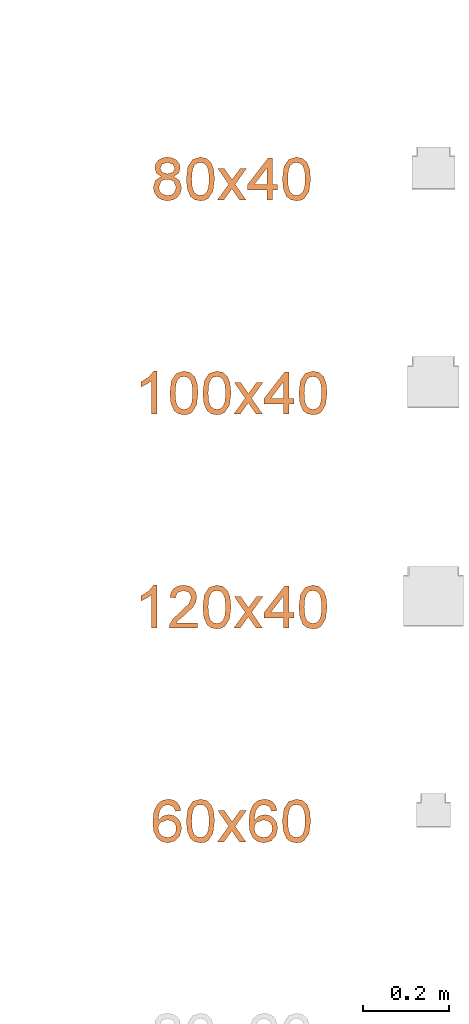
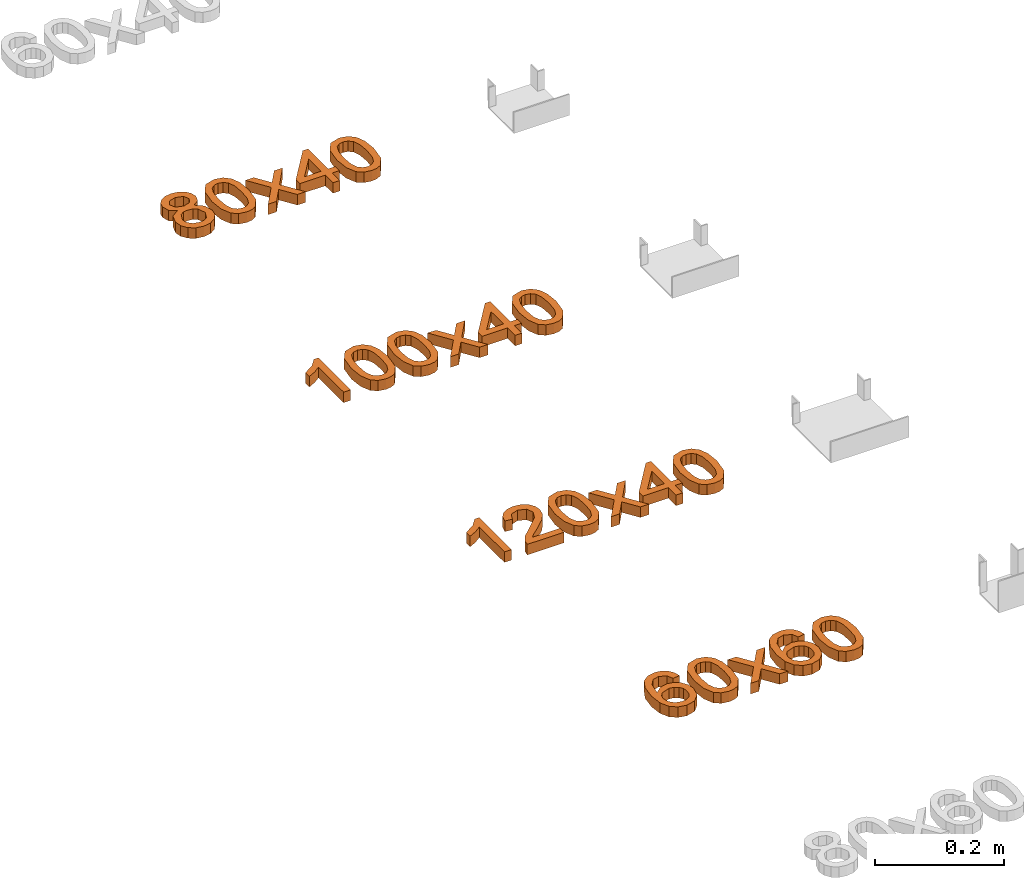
# One storey, part 62 of 71: 4 proxies.
"""IFC2X3 building model written with IfcOpenShell, lengths in millimetres."""

from ifc_helpers import new_model, entity, si_unit, converted_unit, derived_unit, direction, frame, origin, place, context, subcontext, project, spatial, polyline, outline, extrude, element, save


model = new_model("IFC2X3")

# Units and contexts
model_context = context("Model", 3, precision=0.01, world=origin(), true_north=direction((6.12303176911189e-17, 1.0)))
body_context = subcontext(model_context, "Body", "Model", "MODEL_VIEW")
ifc_project = project(units=[si_unit("LENGTHUNIT", "METRE", prefix="MILLI"), si_unit("AREAUNIT", "SQUARE_METRE"), si_unit("VOLUMEUNIT", "CUBIC_METRE"), converted_unit("PLANEANGLEUNIT", "DEGREE", entity("IfcRatioMeasure", 0.0174532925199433), si_unit("PLANEANGLEUNIT", "RADIAN"), dimensions=[0, 0, 0, 0, 0, 0, 0]), si_unit("MASSUNIT", "GRAM", prefix="KILO"), derived_unit("MASSDENSITYUNIT", [(si_unit("MASSUNIT", "GRAM", prefix="KILO"), 1), (si_unit("LENGTHUNIT", "METRE"), -3)]), si_unit("TIMEUNIT", "SECOND"), si_unit("FREQUENCYUNIT", "HERTZ"), si_unit("THERMODYNAMICTEMPERATUREUNIT", "DEGREE_CELSIUS"), derived_unit("THERMALTRANSMITTANCEUNIT", [(si_unit("MASSUNIT", "GRAM", prefix="KILO"), 1), (si_unit("THERMODYNAMICTEMPERATUREUNIT", "KELVIN"), -1), (si_unit("TIMEUNIT", "SECOND"), -3)]), derived_unit("VOLUMETRICFLOWRATEUNIT", [(si_unit("LENGTHUNIT", "METRE"), 3), (si_unit("TIMEUNIT", "SECOND"), -1)]), si_unit("ELECTRICCURRENTUNIT", "AMPERE"), si_unit("ELECTRICVOLTAGEUNIT", "VOLT"), si_unit("POWERUNIT", "WATT"), si_unit("FORCEUNIT", "NEWTON", prefix="KILO"), si_unit("ILLUMINANCEUNIT", "LUX"), si_unit("LUMINOUSFLUXUNIT", "LUMEN"), si_unit("LUMINOUSINTENSITYUNIT", "CANDELA"), derived_unit("USERDEFINED", [(si_unit("MASSUNIT", "GRAM", prefix="KILO"), -1), (si_unit("LENGTHUNIT", "METRE"), -2), (si_unit("TIMEUNIT", "SECOND"), 3), (si_unit("LUMINOUSFLUXUNIT", "LUMEN"), 1)]), derived_unit("LINEARVELOCITYUNIT", [(si_unit("LENGTHUNIT", "METRE"), 1), (si_unit("TIMEUNIT", "SECOND"), -1)]), si_unit("PRESSUREUNIT", "PASCAL"), derived_unit("USERDEFINED", [(si_unit("LENGTHUNIT", "METRE"), -2), (si_unit("MASSUNIT", "GRAM", prefix="KILO"), 1), (si_unit("TIMEUNIT", "SECOND"), -2)])], contexts=[model_context])

# Site, building, storey
site_placement = place(None, origin())
site = spatial("IfcSite", under=ifc_project, at=site_placement, Name="Default", CompositionType="ELEMENT")
building_placement = place(site_placement, origin())
building = spatial("IfcBuilding", under=site, at=building_placement, Name="Наименование здания", CompositionType="ELEMENT")
storey_placement = place(building_placement, origin())
storey = spatial("IfcBuildingStorey", under=building, at=storey_placement, Name="Этаж 01", CompositionType="ELEMENT", Elevation=0.0)

# Proxies
proxy_1_placement = place(storey_placement, origin())
element("IfcBuildingElementProxy", 1, at=proxy_1_placement, inside=storey, Name="Текст модели:100 мм Arial", ObjectType="Текст модели:100 мм Arial", context=body_context, shape_type="SweptSolid", body=[
    extrude(outline(polyline([(10.1224324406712, -11.221212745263), (26.4477736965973, -11.221212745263), (39.6861381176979, -0.0909413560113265), (44.6322314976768, 11.3078156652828), (44.5856416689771, 23.4168603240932), (39.6073830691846, 34.83462909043), (29.7584701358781, 44.1595584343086), (17.4236057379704, 49.7956565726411), (4.98749274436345, 50.1469317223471), (-6.20047708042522, 45.7236060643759), (-14.7909119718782, 37.0359017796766), (-20.0781666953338, 21.0056847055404), (-14.5070621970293, 5.37692494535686), (-28.0684052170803, 5.15563707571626), (-37.7221714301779, -2.60845010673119), (-41.5236361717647, -11.9357006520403), (-41.0036870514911, -22.2232653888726), (-36.1916154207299, -32.1870777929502), (-27.1167126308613, -40.5430713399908), (-16.0503295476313, -45.8123091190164), (-5.18246445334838, -46.5706787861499), (4.3845330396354, -43.2361071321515), (11.5483133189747, -36.2265209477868), (15.2516244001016, -24.0826582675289), (10.1224324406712, -11.221212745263)]), holes=[polyline([(1.34077476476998, -28.9039041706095), (-7.53771017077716, -33.981587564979), (-20.2415350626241, -30.0339976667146), (-28.5905650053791, -19.690281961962), (-26.9800933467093, -9.13787919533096), (-18.1108932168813, -3.8764892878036), (-5.45128168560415, -7.82385811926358), (3.15927028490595, -18.2403048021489), (1.34077476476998, -28.9039041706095)]), polyline([(29.0262968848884, 6.56051660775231), (17.1806533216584, -1.51571690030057), (9.68494123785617, -1.27757268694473), (1.95268767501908, 2.32885586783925), (-4.46267094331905, 8.27886886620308), (-7.64161156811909, 15.3010558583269), (-4.59707955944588, 29.6929468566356), (7.31333657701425, 37.7994665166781), (14.8367372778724, 37.4872096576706), (22.6595729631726, 33.8012523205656), (30.3730358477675, 25.5864099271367), (32.5711030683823, 15.5727469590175), (29.0262968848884, 6.56051660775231)])]), frame((21251.8607415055, 1588.3457776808, 0.0), z_axis=(0.0, 0.0, 1.0), x_axis=(-0.829266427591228, -0.558853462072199, 0.0)), (0.0, 0.0, 1.0), 20.0),
    extrude(outline(polyline([(-7.02884310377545, -33.3490673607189), (17.5323805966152, -33.3490673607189), (35.1984171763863, -27.6137612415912), (43.3439841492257, -18.487651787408), (47.0516941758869, -5.75150665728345), (46.7162020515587, 4.48638208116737), (43.4465778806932, 13.0955287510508), (27.9444305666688, 25.6659118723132), (-0.314338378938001, 32.2325535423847), (-24.0296505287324, 32.3678288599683), (-39.4143020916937, 28.0260881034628), (-49.7293680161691, 18.9002174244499), (-54.4436715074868, 4.63998875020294), (-50.8676582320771, -14.1301059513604), (-35.4058547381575, -26.7333390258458), (-7.02884310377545, -33.3490673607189)]), holes=[polyline([(-5.77428774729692, -20.8548320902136), (-25.0157644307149, -17.3562860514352), (-36.725708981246, -11.57179224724), (-41.0962588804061, -4.77599682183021), (-41.9669219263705, 3.21464792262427), (-39.2244253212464, 11.2791292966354), (-32.8654063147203, 17.2229259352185), (-20.9698370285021, 20.2947501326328), (-1.6176895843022, 19.7433141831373), (17.8514140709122, 16.2707701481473), (28.7803640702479, 10.714159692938), (33.5546988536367, 3.61815959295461), (34.5599568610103, -4.47255337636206), (31.942123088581, -12.1923199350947), (25.84718253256, -18.1754808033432), (14.0250679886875, -21.4027476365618), (-5.77428774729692, -20.8548320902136)])]), frame((21329.7029366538, 1582.48792113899, 0.0), z_axis=(0.0, 0.0, 1.0), x_axis=(0.101851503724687, -0.994799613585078, 0.0)), (0.0, 0.0, 1.0), 20.0),
    extrude(outline(polyline([(-34.5302215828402, -38.4265006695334), (-19.4225343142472, -38.4265006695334), (-0.341721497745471, -12.0616243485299), (2.47870713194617, -16.1328517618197), (17.8561745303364, -38.4265006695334), (32.9638617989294, -38.4265006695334), (7.40832586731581, -1.34399555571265), (33.9448804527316, 35.3461020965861), (18.8371931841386, 35.3461020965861), (4.95577923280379, 16.1671874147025), (0.0261604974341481, 9.34910777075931), (-5.66374769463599, 17.6877663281), (-17.8529044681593, 35.3461020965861), (-32.9605917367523, 35.3461020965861), (-7.69936140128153, -1.34399555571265), (-34.5302215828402, -38.4265006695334)])), frame((21402.5445935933, 1575.09124486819, 0.0)), (0.0, 0.0, 1.0), 20.0),
    extrude(outline(polyline([(-1.14154897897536, -36.3868737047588), (11.4154897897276, -36.3868737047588), (11.4154897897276, -12.8424260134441), (23.9725285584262, -12.8424260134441), (23.9725285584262, -0.285387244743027), (11.4154897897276, -0.285387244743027), (11.4154897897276, 62.499806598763), (1.99771071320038, 62.499806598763), (-46.6608145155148, -0.285387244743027), (-46.6608145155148, -12.8424260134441), (-1.14154897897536, -12.8424260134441), (-1.14154897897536, -36.3868737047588)]), holes=[polyline([(-1.14154897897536, -0.285387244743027), (-31.2097707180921, -0.285387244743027), (-1.14154897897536, 38.5139005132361), (-1.14154897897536, -0.285387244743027)])]), frame((21485.3085295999, 1573.05161790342, 0.0)), (0.0, 0.0, 1.0), 20.0),
    extrude(outline(polyline([(-7.02884310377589, -33.3490673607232), (17.5323805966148, -33.3490673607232), (35.1984171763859, -27.6137612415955), (43.3439841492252, -18.4876517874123), (47.0516941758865, -5.75150665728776), (46.7162020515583, 4.48638208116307), (43.4465778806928, 13.0955287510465), (27.9444305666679, 25.6659118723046), (-0.314338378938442, 32.2325535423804), (-24.0296505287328, 32.367828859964), (-39.4143020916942, 28.0260881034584), (-49.7293680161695, 18.9002174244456), (-54.4436715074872, 4.63998875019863), (-50.8676582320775, -14.1301059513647), (-35.405854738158, -26.7333390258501), (-7.02884310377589, -33.3490673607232)]), holes=[polyline([(-5.77428774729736, -20.8548320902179), (-25.0157644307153, -17.3562860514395), (-36.7257089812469, -11.5717922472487), (-41.096258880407, -4.77599682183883), (-41.9669219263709, 3.21464792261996), (-39.2244253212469, 11.2791292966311), (-32.8654063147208, 17.2229259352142), (-20.9698370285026, 20.2947501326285), (-1.61768958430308, 19.7433141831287), (17.8514140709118, 16.270770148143), (28.7803640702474, 10.7141596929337), (33.5546988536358, 3.61815959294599), (34.5599568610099, -4.47255337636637), (31.9421230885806, -12.192319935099), (25.8471825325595, -18.1754808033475), (14.0250679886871, -21.4027476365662), (-5.77428774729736, -20.8548320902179)])]), frame((21554.1600046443, 1582.48792113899, 0.0), z_axis=(0.0, 0.0, 1.0), x_axis=(0.101851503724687, -0.994799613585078, 0.0)), (0.0, 0.0, 1.0), 20.0),
])
proxy_2_placement = place(storey_placement, origin())
element("IfcBuildingElementProxy", 2, at=proxy_2_placement, inside=storey, Name="Текст модели:100 мм Arial", ObjectType="Текст модели:100 мм Arial", context=body_context, shape_type="SweptSolid", body=[
    extrude(outline(polyline([(-63.8793021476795, -16.918484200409), (36.5770080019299, -16.918484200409), (36.5770080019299, -8.82508030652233), (23.2106288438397, 2.34626961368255), (11.4629304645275, 20.7526321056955), (-0.407395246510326, 20.7526321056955), (5.9324378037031, 7.53340574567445), (14.4059864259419, -4.36144543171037), (-63.8793021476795, -4.36144543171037), (-63.8793021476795, -16.918484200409)])), frame((21210.6140165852, 1100.54404634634, 0.0), z_axis=(0.0, 0.0, 1.0), x_axis=(0.0, 1.0, 0.0)), (0.0, 0.0, 1.0), 20.0),
    extrude(outline(polyline([(-7.02884310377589, -33.3490673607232), (17.5323805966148, -33.3490673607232), (35.1984171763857, -27.6137612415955), (43.3439841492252, -18.4876517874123), (47.0516941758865, -5.75150665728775), (46.7162020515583, 4.48638208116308), (43.4465778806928, 13.0955287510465), (27.9444305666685, 25.6659118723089), (-0.314338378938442, 32.2325535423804), (-24.0296505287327, 32.367828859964), (-39.4143020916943, 28.0260881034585), (-49.7293680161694, 18.9002174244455), (-54.4436715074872, 4.63998875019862), (-50.8676582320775, -14.1301059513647), (-35.405854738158, -26.7333390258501), (-7.02884310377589, -33.3490673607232)]), holes=[polyline([(-5.77428774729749, -20.8548320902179), (-25.0157644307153, -17.3562860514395), (-36.7257089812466, -11.5717922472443), (-41.0962588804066, -4.77599682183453), (-41.9669219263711, 3.21464792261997), (-39.224425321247, 11.2791292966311), (-32.8654063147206, 17.2229259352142), (-20.9698370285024, 20.2947501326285), (-1.61768958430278, 19.743314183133), (17.8514140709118, 16.270770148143), (28.7803640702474, 10.7141596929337), (33.5546988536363, 3.61815959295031), (34.5599568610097, -4.47255337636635), (31.9421230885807, -12.192319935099), (25.8471825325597, -18.1754808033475), (14.0250679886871, -21.4027476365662), (-5.77428774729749, -20.8548320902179)])]), frame((21291.2470054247, 1082.487921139, 0.0), z_axis=(0.0, 0.0, 1.0), x_axis=(0.101851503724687, -0.994799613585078, 0.0)), (0.0, 0.0, 1.0), 20.0),
    extrude(outline(polyline([(-7.02884310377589, -33.3490673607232), (17.5323805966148, -33.3490673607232), (35.1984171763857, -27.6137612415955), (43.3439841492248, -18.4876517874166), (47.0516941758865, -5.75150665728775), (46.7162020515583, 4.48638208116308), (43.4465778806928, 13.0955287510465), (27.944430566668, 25.6659118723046), (-0.314338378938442, 32.2325535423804), (-24.0296505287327, 32.367828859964), (-39.4143020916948, 28.0260881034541), (-49.7293680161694, 18.9002174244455), (-54.4436715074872, 4.63998875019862), (-50.867658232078, -14.130105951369), (-35.405854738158, -26.7333390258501), (-7.02884310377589, -33.3490673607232)]), holes=[polyline([(-5.77428774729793, -20.8548320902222), (-25.0157644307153, -17.3562860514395), (-36.725708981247, -11.5717922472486), (-41.096258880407, -4.77599682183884), (-41.9669219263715, 3.21464792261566), (-39.224425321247, 11.2791292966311), (-32.8654063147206, 17.2229259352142), (-20.9698370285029, 20.2947501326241), (-1.61768958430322, 19.7433141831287), (17.8514140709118, 16.270770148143), (28.7803640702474, 10.7141596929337), (33.5546988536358, 3.618159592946), (34.5599568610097, -4.47255337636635), (31.9421230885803, -12.1923199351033), (25.8471825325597, -18.1754808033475), (14.0250679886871, -21.4027476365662), (-5.77428774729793, -20.8548320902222)])]), frame((21368.158867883, 1082.487921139, 0.0), z_axis=(0.0, 0.0, 1.0), x_axis=(0.101851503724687, -0.994799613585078, 0.0)), (0.0, 0.0, 1.0), 20.0),
    extrude(outline(polyline([(-34.5302215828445, -38.4265006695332), (-19.4225343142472, -38.4265006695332), (-0.341721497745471, -12.0616243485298), (2.47870713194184, -16.1328517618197), (17.8561745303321, -38.4265006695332), (32.9638617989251, -38.4265006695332), (7.40832586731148, -1.34399555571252), (33.9448804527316, 35.3461020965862), (18.8371931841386, 35.3461020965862), (4.95577923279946, 16.1671874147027), (0.0261604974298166, 9.34910777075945), (-5.66374769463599, 17.6877663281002), (-17.8529044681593, 35.3461020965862), (-32.9605917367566, 35.3461020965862), (-7.69936140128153, -1.34399555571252), (-34.5302215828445, -38.4265006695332)])), frame((21441.0005248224, 1075.09124486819, 0.0)), (0.0, 0.0, 1.0), 20.0),
    extrude(outline(polyline([(-1.14154897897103, -36.3868737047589), (11.4154897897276, -36.3868737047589), (11.4154897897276, -12.8424260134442), (23.9725285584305, -12.8424260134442), (23.9725285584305, -0.285387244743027), (11.4154897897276, -0.285387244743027), (11.4154897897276, 62.4998065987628), (1.99771071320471, 62.4998065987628), (-46.6608145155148, -0.285387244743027), (-46.6608145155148, -12.8424260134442), (-1.14154897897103, -12.8424260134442), (-1.14154897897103, -36.3868737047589)]), holes=[polyline([(-1.14154897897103, -0.285387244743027), (-31.2097707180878, -0.285387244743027), (-1.14154897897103, 38.5139005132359), (-1.14154897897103, -0.285387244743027)])]), frame((21523.764460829, 1073.05161790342, 0.0)), (0.0, 0.0, 1.0), 20.0),
    extrude(outline(polyline([(-7.02884310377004, -33.3490673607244), (17.5323805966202, -33.3490673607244), (35.1984171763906, -27.6137612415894), (43.343984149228, -18.487651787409), (47.0516941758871, -5.75150665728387), (46.716202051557, 4.4863820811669), (43.44657788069, 13.0955287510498), (27.9444305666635, 25.6659118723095), (-0.314338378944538, 32.2325535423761), (-24.0296505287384, 32.3678288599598), (-39.4143020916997, 28.0260881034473), (-49.7293680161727, 18.9002174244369), (-54.4436715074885, 4.63998875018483), (-50.8676582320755, -14.1301059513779), (-35.4058547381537, -26.7333390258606), (-7.02884310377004, -33.3490673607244)]), holes=[polyline([(-5.77428774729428, -20.8548320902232), (-25.0157644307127, -17.3562860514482), (-36.725708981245, -11.571792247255), (-41.0962588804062, -4.77599682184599), (-41.9669219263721, 3.21464792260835), (-39.2244253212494, 11.2791292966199), (-32.8654063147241, 17.2229259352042), (-20.9698370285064, 20.2947501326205), (-1.61768958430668, 19.7433141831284), (17.8514140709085, 16.2707701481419), (28.7803640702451, 10.7141596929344), (33.5546988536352, 3.61815959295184), (34.5599568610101, -4.47255337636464), (31.9421230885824, -12.1923199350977), (25.8471825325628, -18.175480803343), (14.0250679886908, -21.4027476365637), (-5.77428774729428, -20.8548320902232)])]), frame((21592.6159358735, 1082.487921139, 0.0), z_axis=(0.0, 0.0, 1.0), x_axis=(0.101851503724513, -0.994799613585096, 0.0)), (0.0, 0.0, 1.0), 20.0),
])
proxy_3_placement = place(storey_placement, origin())
element("IfcBuildingElementProxy", 3, at=proxy_3_placement, inside=storey, Name="Текст модели:100 мм Arial", ObjectType="Текст модели:100 мм Arial", context=body_context, shape_type="SweptSolid", body=[
    extrude(outline(polyline([(-63.8793021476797, -16.918484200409), (36.5770080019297, -16.918484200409), (36.5770080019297, -8.82508030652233), (23.2106288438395, 2.34626961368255), (11.4629304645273, 20.7526321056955), (-0.407395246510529, 20.7526321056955), (5.9324378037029, 7.53340574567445), (14.4059864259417, -4.36144543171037), (-63.8793021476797, -4.36144543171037), (-63.8793021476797, -16.918484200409)])), frame((21210.6140165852, 600.544046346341, 0.0), z_axis=(0.0, 0.0, 1.0), x_axis=(0.0, 1.0, 0.0)), (0.0, 0.0, 1.0), 20.0),
    extrude(outline(polyline([(-32.3858783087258, -45.1669477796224), (-32.3858783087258, -57.7239865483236), (33.5385752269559, -57.7239865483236), (32.1896745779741, -49.0664969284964), (24.5622545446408, -35.736905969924), (8.84143061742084, -21.1810416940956), (-12.8390816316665, -0.260818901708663), (-18.2592096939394, 13.9639515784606), (-13.1456499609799, 25.4786580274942), (0.208466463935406, 30.1752848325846), (14.1266686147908, 25.5890226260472), (19.4119066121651, 12.9093565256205), (31.968945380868, 14.4789863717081), (28.9247218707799, 26.6252235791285), (22.3426998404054, 35.4973110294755), (12.5662358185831, 40.9235704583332), (-0.0613136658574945, 42.7323236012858), (-12.7808336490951, 40.721235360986), (-22.5389035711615, 34.6879706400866), (-28.746912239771, 25.6748617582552), (-30.816248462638, 14.7242410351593), (-28.584431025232, 2.81712712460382), (-21.1654774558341, -9.49465698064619), (-3.17604789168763, -26.6992716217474), (11.2694517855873, -38.7780637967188), (16.9348345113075, -45.1669477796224), (-32.3858783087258, -45.1669477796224)])), frame((21289.3244132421, 594.388730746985, 0.0), z_axis=(0.0, 0.0, -1.0), x_axis=(-1.0, 0.0, 0.0)), (0.0, 0.0, -1.0), 20.0),
    extrude(outline(polyline([(-7.0288431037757, -33.3490673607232), (17.5323805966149, -33.3490673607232), (35.198417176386, -27.6137612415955), (43.343984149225, -18.4876517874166), (47.0516941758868, -5.75150665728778), (46.7162020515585, 4.48638208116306), (43.446577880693, 13.0955287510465), (27.9444305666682, 25.6659118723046), (-0.31433837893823, 32.2325535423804), (-24.0296505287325, 32.3678288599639), (-39.4143020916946, 28.0260881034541), (-49.7293680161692, 18.9002174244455), (-54.443671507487, 4.6399887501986), (-50.8676582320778, -14.130105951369), (-35.4058547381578, -26.7333390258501), (-7.0288431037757, -33.3490673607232)]), holes=[polyline([(-5.77428774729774, -20.8548320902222), (-25.0157644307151, -17.3562860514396), (-36.7257089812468, -11.5717922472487), (-41.0962588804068, -4.77599682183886), (-41.9669219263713, 3.21464792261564), (-39.2244253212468, 11.2791292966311), (-32.8654063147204, 17.2229259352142), (-20.9698370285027, 20.2947501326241), (-1.61768958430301, 19.7433141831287), (17.851414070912, 16.270770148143), (28.7803640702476, 10.7141596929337), (33.554698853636, 3.61815959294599), (34.55995686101, -4.47255337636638), (31.9421230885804, -12.1923199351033), (25.8471825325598, -18.1754808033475), (14.0250679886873, -21.4027476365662), (-5.77428774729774, -20.8548320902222)])]), frame((21368.158867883, 582.487921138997, 0.0), z_axis=(0.0, 0.0, 1.0), x_axis=(0.101851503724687, -0.994799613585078, 0.0)), (0.0, 0.0, 1.0), 20.0),
    extrude(outline(polyline([(-34.5302215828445, -38.4265006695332), (-19.4225343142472, -38.4265006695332), (-0.341721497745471, -12.0616243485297), (2.47870713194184, -16.1328517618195), (17.8561745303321, -38.4265006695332), (32.9638617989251, -38.4265006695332), (7.40832586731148, -1.34399555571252), (33.9448804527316, 35.3461020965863), (18.8371931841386, 35.3461020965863), (4.95577923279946, 16.1671874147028), (0.0261604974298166, 9.34910777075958), (-5.66374769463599, 17.6877663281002), (-17.8529044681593, 35.3461020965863), (-32.9605917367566, 35.3461020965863), (-7.69936140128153, -1.34399555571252), (-34.5302215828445, -38.4265006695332)])), frame((21441.0005248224, 575.091244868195, 0.0)), (0.0, 0.0, 1.0), 20.0),
    extrude(outline(polyline([(-1.14154897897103, -36.3868737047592), (11.4154897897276, -36.3868737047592), (11.4154897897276, -12.8424260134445), (23.9725285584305, -12.8424260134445), (23.9725285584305, -0.285387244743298), (11.4154897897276, -0.285387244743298), (11.4154897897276, 62.4998065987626), (1.99771071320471, 62.4998065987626), (-46.6608145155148, -0.285387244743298), (-46.6608145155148, -12.8424260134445), (-1.14154897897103, -12.8424260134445), (-1.14154897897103, -36.3868737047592)]), holes=[polyline([(-1.14154897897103, -0.285387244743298), (-31.2097707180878, -0.285387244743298), (-1.14154897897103, 38.5139005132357), (-1.14154897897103, -0.285387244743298)])]), frame((21523.764460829, 573.051617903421, 0.0)), (0.0, 0.0, 1.0), 20.0),
    extrude(outline(polyline([(-7.02884310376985, -33.3490673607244), (17.5323805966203, -33.3490673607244), (35.1984171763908, -27.6137612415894), (43.3439841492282, -18.4876517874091), (47.0516941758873, -5.75150665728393), (46.7162020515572, 4.48638208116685), (43.4465778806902, 13.0955287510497), (27.9444305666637, 25.6659118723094), (-0.314338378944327, 32.232553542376), (-24.0296505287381, 32.3678288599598), (-39.4143020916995, 28.0260881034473), (-49.7293680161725, 18.9002174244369), (-54.4436715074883, 4.63998875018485), (-50.8676582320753, -14.1301059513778), (-35.4058547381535, -26.7333390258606), (-7.02884310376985, -33.3490673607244)]), holes=[polyline([(-5.77428774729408, -20.8548320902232), (-25.0157644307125, -17.3562860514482), (-36.7257089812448, -11.571792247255), (-41.096258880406, -4.77599682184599), (-41.9669219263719, 3.21464792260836), (-39.2244253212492, 11.2791292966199), (-32.8654063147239, 17.2229259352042), (-20.9698370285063, 20.2947501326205), (-1.61768958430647, 19.7433141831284), (17.8514140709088, 16.2707701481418), (28.7803640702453, 10.7141596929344), (33.5546988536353, 3.61815959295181), (34.5599568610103, -4.47255337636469), (31.9421230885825, -12.1923199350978), (25.847182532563, -18.175480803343), (14.025067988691, -21.4027476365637), (-5.77428774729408, -20.8548320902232)])]), frame((21592.6159358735, 582.487921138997, 0.0), z_axis=(0.0, 0.0, 1.0), x_axis=(0.101851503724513, -0.994799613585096, 0.0)), (0.0, 0.0, 1.0), 20.0),
])
proxy_4_placement = place(storey_placement, origin())
element("IfcBuildingElementProxy", 4, at=proxy_4_placement, inside=storey, Name="Текст модели:100 мм Arial", ObjectType="Текст модели:100 мм Arial", context=body_context, shape_type="SweptSolid", body=[
    extrude(outline(polyline([(6.79275401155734, -32.5027761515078), (18.3659045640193, -32.5027761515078), (28.1525204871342, -28.8011371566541), (35.6312934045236, -21.7178704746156), (40.2809149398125, -11.5729874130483), (41.4130789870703, 3.2366707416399), (36.139124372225, 16.3729018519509), (21.8599739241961, 28.8803269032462), (-1.50836821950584, 38.2054593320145), (-23.6059131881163, 41.7609274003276), (-39.9814227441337, 38.5965283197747), (-51.1650797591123, 29.9216784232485), (-57.6870671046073, 16.945794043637), (-57.9805556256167, -0.049487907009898), (-49.2081886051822, -14.3141019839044), (-33.6167855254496, -22.935056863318), (-20.6265742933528, -24.2502330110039), (-8.97800352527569, -20.6254922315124), (0.0919027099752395, -13.0350962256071), (5.34612034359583, -2.45330669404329), (5.85483161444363, 11.6447254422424), (-0.843339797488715, 24.9910631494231), (19.7707676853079, 15.5765036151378), (28.4840991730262, 4.26766164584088), (28.3893512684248, -7.46374532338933), (19.9956250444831, -18.19363367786), (8.63303585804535, -19.9825396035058), (6.79275401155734, -32.5027761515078)]), holes=[polyline([(-18.7586717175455, 29.9549594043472), (-11.632811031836, 26.3613362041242), (-6.94154076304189, 20.2038317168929), (-5.85783236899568, 4.13761066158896), (-9.48331864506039, -3.95286412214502), (-15.1077394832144, -9.26901644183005), (-22.3091633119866, -11.5969098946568), (-30.6656585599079, -10.7226080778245), (-38.6094491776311, -7.06141592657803), (-43.8637090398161, -1.22509865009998), (-46.1835287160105, 6.17768396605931), (-45.323998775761, 14.5382721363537), (-39.6901171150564, 24.7221971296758), (-30.0168134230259, 30.0585493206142), (-18.7586717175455, 29.9549594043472)])]), frame((21253.7454554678, 95.2124824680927, 0.0), z_axis=(0.0, 0.0, 1.0), x_axis=(-0.267015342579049, 0.963692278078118, 0.0)), (0.0, 0.0, 1.0), 20.0),
    extrude(outline(polyline([(-7.0288431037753, -33.3490673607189), (17.5323805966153, -33.3490673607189), (35.1984171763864, -27.6137612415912), (43.3439841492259, -18.487651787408), (47.0516941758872, -5.75150665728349), (46.7162020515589, 4.48638208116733), (43.4465778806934, 13.0955287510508), (27.944430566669, 25.6659118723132), (-0.314338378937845, 32.2325535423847), (-24.029650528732, 32.3678288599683), (-39.4143020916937, 28.0260881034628), (-49.7293680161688, 18.9002174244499), (-54.4436715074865, 4.63998875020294), (-50.8676582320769, -14.1301059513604), (-35.4058547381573, -26.7333390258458), (-7.0288431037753, -33.3490673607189)]), holes=[polyline([(-5.77428774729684, -20.8548320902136), (-25.0157644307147, -17.3562860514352), (-36.725708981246, -11.57179224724), (-41.096258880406, -4.77599682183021), (-41.9669219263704, 3.21464792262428), (-39.2244253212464, 11.2791292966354), (-32.8654063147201, 17.2229259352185), (-20.9698370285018, 20.2947501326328), (-1.61768958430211, 19.7433141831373), (17.8514140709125, 16.2707701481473), (28.7803640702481, 10.714159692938), (33.5546988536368, 3.61815959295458), (34.5599568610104, -4.47255337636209), (31.9421230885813, -12.1923199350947), (25.8471825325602, -18.1754808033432), (14.0250679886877, -21.4027476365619), (-5.77428774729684, -20.8548320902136)])]), frame((21329.7029366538, 82.4879211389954, 0.0), z_axis=(0.0, 0.0, 1.0), x_axis=(0.101851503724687, -0.994799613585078, 0.0)), (0.0, 0.0, 1.0), 20.0),
    extrude(outline(polyline([(-34.5302215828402, -38.4265006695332), (-19.4225343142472, -38.4265006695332), (-0.341721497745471, -12.0616243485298), (2.47870713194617, -16.1328517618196), (17.8561745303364, -38.4265006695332), (32.9638617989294, -38.4265006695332), (7.40832586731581, -1.34399555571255), (33.9448804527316, 35.3461020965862), (18.8371931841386, 35.3461020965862), (4.95577923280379, 16.1671874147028), (0.0261604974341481, 9.34910777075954), (-5.66374769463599, 17.6877663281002), (-17.8529044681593, 35.3461020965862), (-32.9605917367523, 35.3461020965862), (-7.69936140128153, -1.34399555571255), (-34.5302215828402, -38.4265006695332)])), frame((21402.5445935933, 75.0912448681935, 0.0)), (0.0, 0.0, 1.0), 20.0),
    extrude(outline(polyline([(6.79275401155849, -32.5027761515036), (18.3659045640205, -32.5027761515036), (28.1525204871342, -28.8011371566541), (35.6312934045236, -21.7178704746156), (40.2809149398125, -11.5729874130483), (41.4130789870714, 3.23667074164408), (36.139124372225, 16.3729018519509), (21.8599739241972, 28.8803269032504), (-1.50836821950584, 38.2054593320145), (-23.6059131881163, 41.7609274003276), (-39.9814227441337, 38.5965283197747), (-51.1650797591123, 29.9216784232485), (-57.6870671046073, 16.945794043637), (-57.9805556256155, -0.0494879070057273), (-49.2081886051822, -14.3141019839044), (-33.6167855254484, -22.9350568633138), (-20.6265742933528, -24.2502330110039), (-8.97800352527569, -20.6254922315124), (0.0919027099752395, -13.0350962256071), (5.34612034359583, -2.45330669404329), (5.85483161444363, 11.6447254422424), (-0.843339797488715, 24.9910631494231), (19.7707676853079, 15.5765036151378), (28.4840991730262, 4.26766164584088), (28.3893512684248, -7.46374532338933), (19.9956250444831, -18.19363367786), (8.63303585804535, -19.9825396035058), (6.79275401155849, -32.5027761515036)]), holes=[polyline([(-18.7586717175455, 29.9549594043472), (-11.6328110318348, 26.3613362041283), (-6.94154076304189, 20.2038317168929), (-5.85783236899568, 4.13761066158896), (-9.48331864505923, -3.95286412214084), (-15.1077394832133, -9.26901644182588), (-22.3091633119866, -11.5969098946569), (-30.6656585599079, -10.7226080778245), (-38.60944917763, -7.06141592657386), (-43.8637090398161, -1.22509865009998), (-46.1835287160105, 6.17768396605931), (-45.323998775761, 14.5382721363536), (-39.6901171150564, 24.7221971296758), (-30.0168134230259, 30.0585493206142), (-18.7586717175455, 29.9549594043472)])]), frame((21478.2025234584, 95.2124824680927, 0.0), z_axis=(0.0, 0.0, 1.0), x_axis=(-0.267015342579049, 0.963692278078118, 0.0)), (0.0, 0.0, 1.0), 20.0),
    extrude(outline(polyline([(-7.02884310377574, -33.3490673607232), (17.5323805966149, -33.3490673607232), (35.1984171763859, -27.6137612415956), (43.3439841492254, -18.4876517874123), (47.0516941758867, -5.7515066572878), (46.7162020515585, 4.48638208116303), (43.4465778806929, 13.0955287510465), (27.9444305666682, 25.6659118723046), (-0.314338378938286, 32.2325535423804), (-24.0296505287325, 32.367828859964), (-39.4143020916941, 28.0260881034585), (-49.7293680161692, 18.9002174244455), (-54.443671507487, 4.63998875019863), (-50.8676582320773, -14.1301059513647), (-35.4058547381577, -26.7333390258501), (-7.02884310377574, -33.3490673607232)]), holes=[polyline([(-5.77428774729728, -20.8548320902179), (-25.0157644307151, -17.3562860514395), (-36.7257089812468, -11.5717922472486), (-41.0962588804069, -4.77599682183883), (-41.9669219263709, 3.21464792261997), (-39.2244253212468, 11.2791292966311), (-32.8654063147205, 17.2229259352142), (-20.9698370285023, 20.2947501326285), (-1.617689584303, 19.7433141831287), (17.851414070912, 16.270770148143), (28.7803640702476, 10.7141596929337), (33.554698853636, 3.61815959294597), (34.55995686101, -4.4725533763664), (31.9421230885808, -12.192319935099), (25.8471825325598, -18.1754808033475), (14.0250679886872, -21.4027476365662), (-5.77428774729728, -20.8548320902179)])]), frame((21554.1600046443, 82.4879211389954, 0.0), z_axis=(0.0, 0.0, 1.0), x_axis=(0.101851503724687, -0.994799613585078, 0.0)), (0.0, 0.0, 1.0), 20.0),
])

save(model, "model.ifc")
